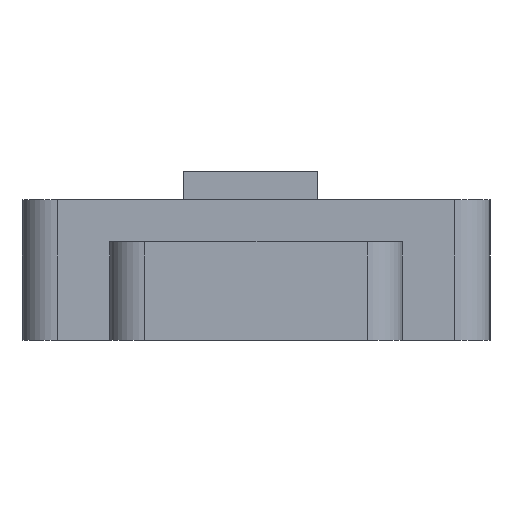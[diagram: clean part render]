
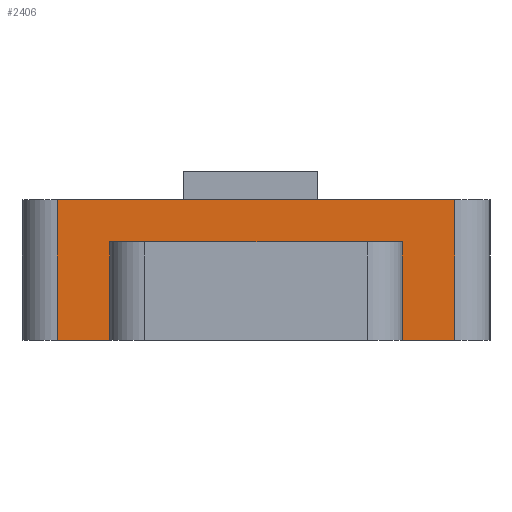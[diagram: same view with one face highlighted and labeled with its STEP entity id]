
A CAD part, left-side view. The second image highlights one B-rep face of the part: STEP entity #2406.
In plain terms, the highlighted planar face has unit normal (-1, 0, 0).
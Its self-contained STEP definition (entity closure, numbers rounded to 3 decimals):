
#62 = PLANE('',#63);
#63 = AXIS2_PLACEMENT_3D('',#64,#65,#66);
#64 = CARTESIAN_POINT('',(0.,0.,0.));
#65 = DIRECTION('',(0.,0.,1.));
#66 = DIRECTION('',(1.,0.,-0.));
#90 = CYLINDRICAL_SURFACE('',#91,0.6);
#91 = AXIS2_PLACEMENT_3D('',#92,#93,#94);
#92 = CARTESIAN_POINT('',(-14.25,-3.4,0.));
#93 = DIRECTION('',(0.,0.,1.));
#94 = DIRECTION('',(0.,-1.,0.));
#118 = PLANE('',#119);
#119 = AXIS2_PLACEMENT_3D('',#120,#121,#122);
#120 = CARTESIAN_POINT('',(0.,0.,2.4));
#121 = DIRECTION('',(0.,0.,1.));
#122 = DIRECTION('',(1.,0.,-0.));
#160 = VERTEX_POINT('',#161);
#161 = CARTESIAN_POINT('',(-14.85,-3.4,0.));
#463 = VERTEX_POINT('',#464);
#464 = CARTESIAN_POINT('',(-14.85,3.4,0.));
#479 = CYLINDRICAL_SURFACE('',#480,0.6);
#480 = AXIS2_PLACEMENT_3D('',#481,#482,#483);
#481 = CARTESIAN_POINT('',(-14.25,3.4,0.));
#482 = DIRECTION('',(0.,0.,1.));
#483 = DIRECTION('',(-0.,1.,0.));
#491 = EDGE_CURVE('',#463,#492,#494,.T.);
#492 = VERTEX_POINT('',#493);
#493 = CARTESIAN_POINT('',(-14.85,2.5,0.));
#494 = SURFACE_CURVE('',#495,(#499,#506),.PCURVE_S1.);
#495 = LINE('',#496,#497);
#496 = CARTESIAN_POINT('',(-14.85,4.,0.));
#497 = VECTOR('',#498,1.);
#498 = DIRECTION('',(0.,-1.,0.));
#499 = PCURVE('',#62,#500);
#500 = DEFINITIONAL_REPRESENTATION('',(#501),#505);
#501 = LINE('',#502,#503);
#502 = CARTESIAN_POINT('',(-14.85,4.));
#503 = VECTOR('',#504,1.);
#504 = DIRECTION('',(0.,-1.));
#505 = ( GEOMETRIC_REPRESENTATION_CONTEXT(2) 
PARAMETRIC_REPRESENTATION_CONTEXT() REPRESENTATION_CONTEXT('2D SPACE',''
  ) );
#506 = PCURVE('',#507,#512);
#507 = PLANE('',#508);
#508 = AXIS2_PLACEMENT_3D('',#509,#510,#511);
#509 = CARTESIAN_POINT('',(-14.85,4.,0.));
#510 = DIRECTION('',(1.,0.,-0.));
#511 = DIRECTION('',(0.,-1.,0.));
#512 = DEFINITIONAL_REPRESENTATION('',(#513),#517);
#513 = LINE('',#514,#515);
#514 = CARTESIAN_POINT('',(0.,0.));
#515 = VECTOR('',#516,1.);
#516 = DIRECTION('',(1.,0.));
#517 = ( GEOMETRIC_REPRESENTATION_CONTEXT(2) 
PARAMETRIC_REPRESENTATION_CONTEXT() REPRESENTATION_CONTEXT('2D SPACE',''
  ) );
#535 = PLANE('',#536);
#536 = AXIS2_PLACEMENT_3D('',#537,#538,#539);
#537 = CARTESIAN_POINT('',(-13.85,2.5,0.));
#538 = DIRECTION('',(0.,-1.,0.));
#539 = DIRECTION('',(-1.,0.,0.));
#638 = VERTEX_POINT('',#639);
#639 = CARTESIAN_POINT('',(-14.85,-2.5,0.));
#653 = PLANE('',#654);
#654 = AXIS2_PLACEMENT_3D('',#655,#656,#657);
#655 = CARTESIAN_POINT('',(-17.25,-2.5,0.));
#656 = DIRECTION('',(0.,1.,0.));
#657 = DIRECTION('',(1.,0.,0.));
#665 = EDGE_CURVE('',#638,#160,#666,.T.);
#666 = SURFACE_CURVE('',#667,(#671,#678),.PCURVE_S1.);
#667 = LINE('',#668,#669);
#668 = CARTESIAN_POINT('',(-14.85,4.,0.));
#669 = VECTOR('',#670,1.);
#670 = DIRECTION('',(0.,-1.,0.));
#671 = PCURVE('',#62,#672);
#672 = DEFINITIONAL_REPRESENTATION('',(#673),#677);
#673 = LINE('',#674,#675);
#674 = CARTESIAN_POINT('',(-14.85,4.));
#675 = VECTOR('',#676,1.);
#676 = DIRECTION('',(0.,-1.));
#677 = ( GEOMETRIC_REPRESENTATION_CONTEXT(2) 
PARAMETRIC_REPRESENTATION_CONTEXT() REPRESENTATION_CONTEXT('2D SPACE',''
  ) );
#678 = PCURVE('',#507,#679);
#679 = DEFINITIONAL_REPRESENTATION('',(#680),#684);
#680 = LINE('',#681,#682);
#681 = CARTESIAN_POINT('',(0.,0.));
#682 = VECTOR('',#683,1.);
#683 = DIRECTION('',(1.,0.));
#684 = ( GEOMETRIC_REPRESENTATION_CONTEXT(2) 
PARAMETRIC_REPRESENTATION_CONTEXT() REPRESENTATION_CONTEXT('2D SPACE',''
  ) );
#690 = EDGE_CURVE('',#160,#691,#693,.T.);
#691 = VERTEX_POINT('',#692);
#692 = CARTESIAN_POINT('',(-14.85,-3.4,2.4));
#693 = SURFACE_CURVE('',#694,(#698,#705),.PCURVE_S1.);
#694 = LINE('',#695,#696);
#695 = CARTESIAN_POINT('',(-14.85,-3.4,0.));
#696 = VECTOR('',#697,1.);
#697 = DIRECTION('',(0.,0.,1.));
#698 = PCURVE('',#90,#699);
#699 = DEFINITIONAL_REPRESENTATION('',(#700),#704);
#700 = LINE('',#701,#702);
#701 = CARTESIAN_POINT('',(-1.571,0.));
#702 = VECTOR('',#703,1.);
#703 = DIRECTION('',(-0.,1.));
#704 = ( GEOMETRIC_REPRESENTATION_CONTEXT(2) 
PARAMETRIC_REPRESENTATION_CONTEXT() REPRESENTATION_CONTEXT('2D SPACE',''
  ) );
#705 = PCURVE('',#507,#706);
#706 = DEFINITIONAL_REPRESENTATION('',(#707),#711);
#707 = LINE('',#708,#709);
#708 = CARTESIAN_POINT('',(7.4,0.));
#709 = VECTOR('',#710,1.);
#710 = DIRECTION('',(0.,-1.));
#711 = ( GEOMETRIC_REPRESENTATION_CONTEXT(2) 
PARAMETRIC_REPRESENTATION_CONTEXT() REPRESENTATION_CONTEXT('2D SPACE',''
  ) );
#866 = VERTEX_POINT('',#867);
#867 = CARTESIAN_POINT('',(-14.85,3.4,2.4));
#889 = EDGE_CURVE('',#866,#691,#890,.T.);
#890 = SURFACE_CURVE('',#891,(#895,#902),.PCURVE_S1.);
#891 = LINE('',#892,#893);
#892 = CARTESIAN_POINT('',(-14.85,4.,2.4));
#893 = VECTOR('',#894,1.);
#894 = DIRECTION('',(0.,-1.,0.));
#895 = PCURVE('',#118,#896);
#896 = DEFINITIONAL_REPRESENTATION('',(#897),#901);
#897 = LINE('',#898,#899);
#898 = CARTESIAN_POINT('',(-14.85,4.));
#899 = VECTOR('',#900,1.);
#900 = DIRECTION('',(0.,-1.));
#901 = ( GEOMETRIC_REPRESENTATION_CONTEXT(2) 
PARAMETRIC_REPRESENTATION_CONTEXT() REPRESENTATION_CONTEXT('2D SPACE',''
  ) );
#902 = PCURVE('',#507,#903);
#903 = DEFINITIONAL_REPRESENTATION('',(#904),#908);
#904 = LINE('',#905,#906);
#905 = CARTESIAN_POINT('',(0.,-2.4));
#906 = VECTOR('',#907,1.);
#907 = DIRECTION('',(1.,0.));
#908 = ( GEOMETRIC_REPRESENTATION_CONTEXT(2) 
PARAMETRIC_REPRESENTATION_CONTEXT() REPRESENTATION_CONTEXT('2D SPACE',''
  ) );
#2406 = ADVANCED_FACE('',(#2407),#507,.F.);
#2407 = FACE_BOUND('',#2408,.F.);
#2408 = EDGE_LOOP('',(#2409,#2410,#2431,#2432,#2433,#2434,#2455,#2481));
#2409 = ORIENTED_EDGE('',*,*,#491,.F.);
#2410 = ORIENTED_EDGE('',*,*,#2411,.T.);
#2411 = EDGE_CURVE('',#463,#866,#2412,.T.);
#2412 = SURFACE_CURVE('',#2413,(#2417,#2424),.PCURVE_S1.);
#2413 = LINE('',#2414,#2415);
#2414 = CARTESIAN_POINT('',(-14.85,3.4,0.));
#2415 = VECTOR('',#2416,1.);
#2416 = DIRECTION('',(0.,0.,1.));
#2417 = PCURVE('',#507,#2418);
#2418 = DEFINITIONAL_REPRESENTATION('',(#2419),#2423);
#2419 = LINE('',#2420,#2421);
#2420 = CARTESIAN_POINT('',(0.6,0.));
#2421 = VECTOR('',#2422,1.);
#2422 = DIRECTION('',(0.,-1.));
#2423 = ( GEOMETRIC_REPRESENTATION_CONTEXT(2) 
PARAMETRIC_REPRESENTATION_CONTEXT() REPRESENTATION_CONTEXT('2D SPACE',''
  ) );
#2424 = PCURVE('',#479,#2425);
#2425 = DEFINITIONAL_REPRESENTATION('',(#2426),#2430);
#2426 = LINE('',#2427,#2428);
#2427 = CARTESIAN_POINT('',(1.571,0.));
#2428 = VECTOR('',#2429,1.);
#2429 = DIRECTION('',(0.,1.));
#2430 = ( GEOMETRIC_REPRESENTATION_CONTEXT(2) 
PARAMETRIC_REPRESENTATION_CONTEXT() REPRESENTATION_CONTEXT('2D SPACE',''
  ) );
#2431 = ORIENTED_EDGE('',*,*,#889,.T.);
#2432 = ORIENTED_EDGE('',*,*,#690,.F.);
#2433 = ORIENTED_EDGE('',*,*,#665,.F.);
#2434 = ORIENTED_EDGE('',*,*,#2435,.T.);
#2435 = EDGE_CURVE('',#638,#2436,#2438,.T.);
#2436 = VERTEX_POINT('',#2437);
#2437 = CARTESIAN_POINT('',(-14.85,-2.5,1.68));
#2438 = SURFACE_CURVE('',#2439,(#2443,#2449),.PCURVE_S1.);
#2439 = LINE('',#2440,#2441);
#2440 = CARTESIAN_POINT('',(-14.85,-2.5,0.));
#2441 = VECTOR('',#2442,1.);
#2442 = DIRECTION('',(0.,-0.,1.));
#2443 = PCURVE('',#507,#2444);
#2444 = DEFINITIONAL_REPRESENTATION('',(#2445),#2448);
#2445 = B_SPLINE_CURVE_WITH_KNOTS('',1,(#2446,#2447),.UNSPECIFIED.,.F.,
  .F.,(2,2),(0.,1.68),.PIECEWISE_BEZIER_KNOTS.);
#2446 = CARTESIAN_POINT('',(6.5,0.));
#2447 = CARTESIAN_POINT('',(6.5,-1.68));
#2448 = ( GEOMETRIC_REPRESENTATION_CONTEXT(2) 
PARAMETRIC_REPRESENTATION_CONTEXT() REPRESENTATION_CONTEXT('2D SPACE',''
  ) );
#2449 = PCURVE('',#653,#2450);
#2450 = DEFINITIONAL_REPRESENTATION('',(#2451),#2454);
#2451 = B_SPLINE_CURVE_WITH_KNOTS('',1,(#2452,#2453),.UNSPECIFIED.,.F.,
  .F.,(2,2),(0.,1.68),.PIECEWISE_BEZIER_KNOTS.);
#2452 = CARTESIAN_POINT('',(2.4,0.));
#2453 = CARTESIAN_POINT('',(2.4,-1.68));
#2454 = ( GEOMETRIC_REPRESENTATION_CONTEXT(2) 
PARAMETRIC_REPRESENTATION_CONTEXT() REPRESENTATION_CONTEXT('2D SPACE',''
  ) );
#2455 = ORIENTED_EDGE('',*,*,#2456,.F.);
#2456 = EDGE_CURVE('',#2457,#2436,#2459,.T.);
#2457 = VERTEX_POINT('',#2458);
#2458 = CARTESIAN_POINT('',(-14.85,2.5,1.68));
#2459 = SURFACE_CURVE('',#2460,(#2464,#2470),.PCURVE_S1.);
#2460 = LINE('',#2461,#2462);
#2461 = CARTESIAN_POINT('',(-14.85,2.,1.68));
#2462 = VECTOR('',#2463,1.);
#2463 = DIRECTION('',(0.,-1.,0.));
#2464 = PCURVE('',#507,#2465);
#2465 = DEFINITIONAL_REPRESENTATION('',(#2466),#2469);
#2466 = B_SPLINE_CURVE_WITH_KNOTS('',1,(#2467,#2468),.UNSPECIFIED.,.F.,
  .F.,(2,2),(-0.5,4.5),.PIECEWISE_BEZIER_KNOTS.);
#2467 = CARTESIAN_POINT('',(1.5,-1.68));
#2468 = CARTESIAN_POINT('',(6.5,-1.68));
#2469 = ( GEOMETRIC_REPRESENTATION_CONTEXT(2) 
PARAMETRIC_REPRESENTATION_CONTEXT() REPRESENTATION_CONTEXT('2D SPACE',''
  ) );
#2470 = PCURVE('',#2471,#2476);
#2471 = PLANE('',#2472);
#2472 = AXIS2_PLACEMENT_3D('',#2473,#2474,#2475);
#2473 = CARTESIAN_POINT('',(-15.55,0.,1.68));
#2474 = DIRECTION('',(0.,0.,1.));
#2475 = DIRECTION('',(1.,0.,-0.));
#2476 = DEFINITIONAL_REPRESENTATION('',(#2477),#2480);
#2477 = B_SPLINE_CURVE_WITH_KNOTS('',1,(#2478,#2479),.UNSPECIFIED.,.F.,
  .F.,(2,2),(-0.5,4.5),.PIECEWISE_BEZIER_KNOTS.);
#2478 = CARTESIAN_POINT('',(0.7,2.5));
#2479 = CARTESIAN_POINT('',(0.7,-2.5));
#2480 = ( GEOMETRIC_REPRESENTATION_CONTEXT(2) 
PARAMETRIC_REPRESENTATION_CONTEXT() REPRESENTATION_CONTEXT('2D SPACE',''
  ) );
#2481 = ORIENTED_EDGE('',*,*,#2482,.T.);
#2482 = EDGE_CURVE('',#2457,#492,#2483,.T.);
#2483 = SURFACE_CURVE('',#2484,(#2488,#2494),.PCURVE_S1.);
#2484 = LINE('',#2485,#2486);
#2485 = CARTESIAN_POINT('',(-14.85,2.5,0.));
#2486 = VECTOR('',#2487,1.);
#2487 = DIRECTION('',(0.,-0.,-1.));
#2488 = PCURVE('',#507,#2489);
#2489 = DEFINITIONAL_REPRESENTATION('',(#2490),#2493);
#2490 = B_SPLINE_CURVE_WITH_KNOTS('',1,(#2491,#2492),.UNSPECIFIED.,.F.,
  .F.,(2,2),(-1.68,0.),.PIECEWISE_BEZIER_KNOTS.);
#2491 = CARTESIAN_POINT('',(1.5,-1.68));
#2492 = CARTESIAN_POINT('',(1.5,0.));
#2493 = ( GEOMETRIC_REPRESENTATION_CONTEXT(2) 
PARAMETRIC_REPRESENTATION_CONTEXT() REPRESENTATION_CONTEXT('2D SPACE',''
  ) );
#2494 = PCURVE('',#535,#2495);
#2495 = DEFINITIONAL_REPRESENTATION('',(#2496),#2499);
#2496 = B_SPLINE_CURVE_WITH_KNOTS('',1,(#2497,#2498),.UNSPECIFIED.,.F.,
  .F.,(2,2),(-1.68,0.),.PIECEWISE_BEZIER_KNOTS.);
#2497 = CARTESIAN_POINT('',(1.,-1.68));
#2498 = CARTESIAN_POINT('',(1.,0.));
#2499 = ( GEOMETRIC_REPRESENTATION_CONTEXT(2) 
PARAMETRIC_REPRESENTATION_CONTEXT() REPRESENTATION_CONTEXT('2D SPACE',''
  ) );
